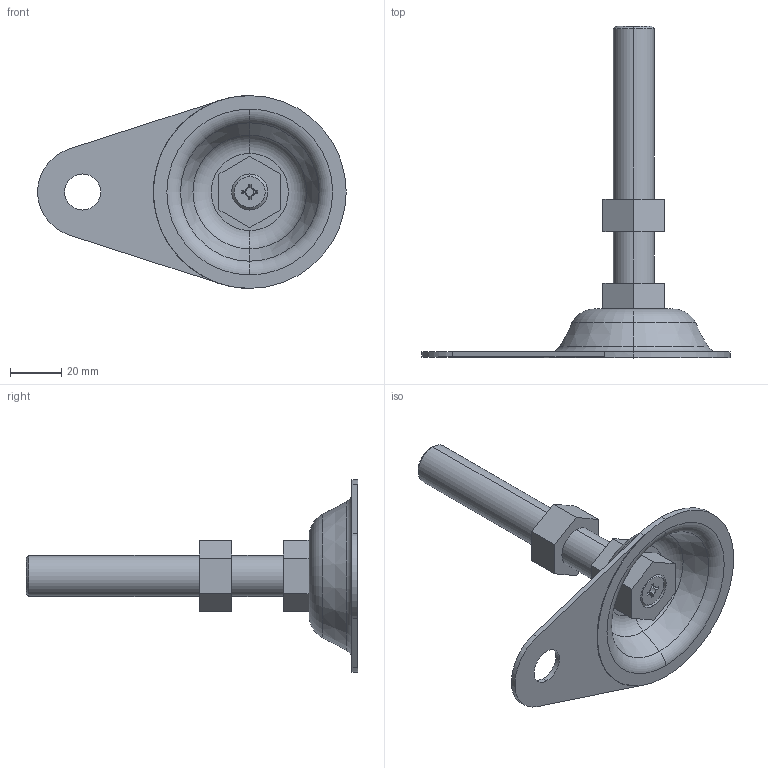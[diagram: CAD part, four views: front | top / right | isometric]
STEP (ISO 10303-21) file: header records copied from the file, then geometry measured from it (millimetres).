
FILE_DESCRIPTION (( 'STEP AP214' ), '1' );
FILE_NAME ('EA18-16100.STEP', '2016-01-18T13:49:52', ( '' ), ( '' ), 'SwSTEP 2.0', 'SolidWorks 2012', '' );
FILE_SCHEMA (( 'AUTOMOTIVE_DESIGN' ));
Length unit declared in the file: millimetre
Products named in the file (1): EA18-16100
Bounding box: 119.94 x 129 x 75 mm (x, y, z)
Volume: 50701.3 mm3; surface area: 23821.9 mm2
Topology: 1 solids, 1 shells, 75 faces, 180 edges, 116 vertices
Faces by surface type: plane 44, cone 12, cylinder 11, torus 8
Entity records: 2248 total; most frequent: CARTESIAN_POINT 420, DIRECTION 384, ORIENTED_EDGE 360, EDGE_CURVE 180, AXIS2_PLACEMENT_3D 136, VERTEX_POINT 116, LINE 112, VECTOR 112
